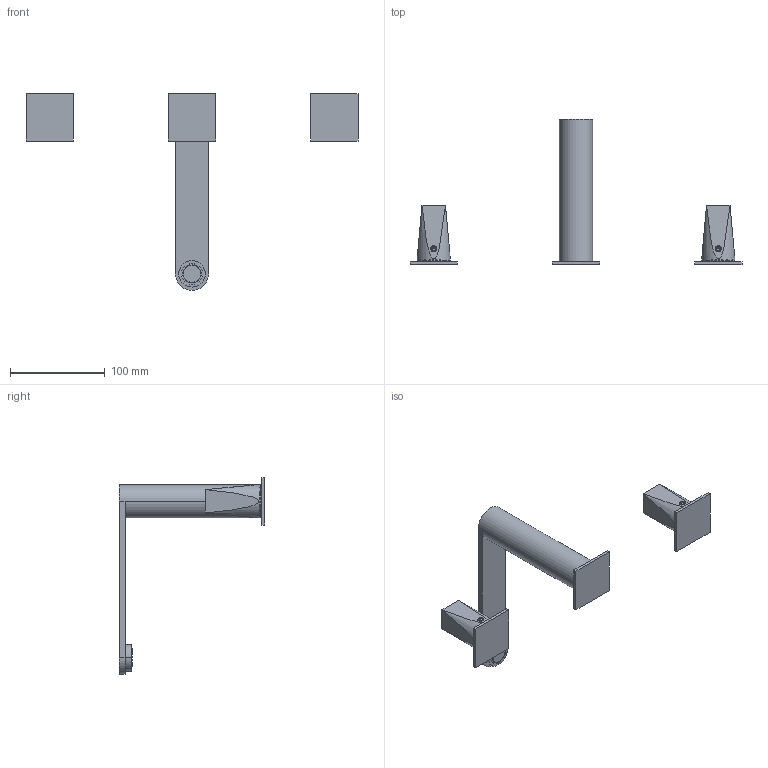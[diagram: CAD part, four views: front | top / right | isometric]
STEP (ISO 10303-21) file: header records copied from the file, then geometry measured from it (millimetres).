
FILE_DESCRIPTION((''),'2;1');
FILE_NAME('4906821_SW0001','2023-09-19T15:53:38',('carloff'),(''),'CREO PARAMETRIC BY PTC INC, 2022014','CREO PARAMETRIC BY PTC INC, 2022014','');
FILE_SCHEMA(('CONFIG_CONTROL_DESIGN'));
Length unit declared in the file: millimetre
Products named in the file (1): 4906821_SW0001
Bounding box: 350 x 153 x 207.5 mm (x, y, z)
Volume: 292633.2 mm3; surface area: 66194.1 mm2
Topology: 5 solids, 5 shells, 174 faces, 420 edges, 266 vertices
Faces by surface type: plane 77, cylinder 59, cone 20, torus 14, sphere 4
Entity records: 6074 total; most frequent: CARTESIAN_POINT 1954, DIRECTION 870, ORIENTED_EDGE 832, EDGE_CURVE 416, AXIS2_PLACEMENT_3D 336, VERTEX_POINT 266, VECTOR 198, LINE 198
